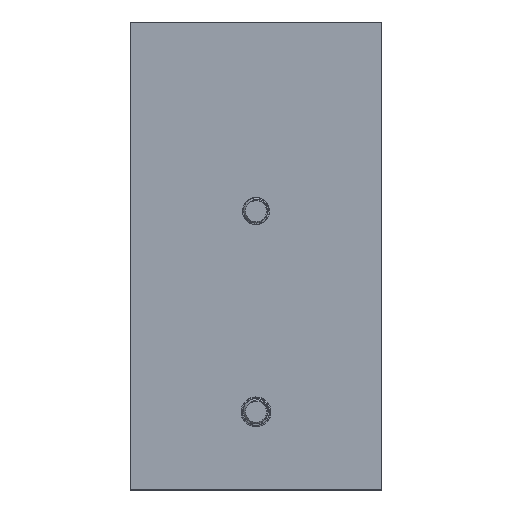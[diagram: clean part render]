
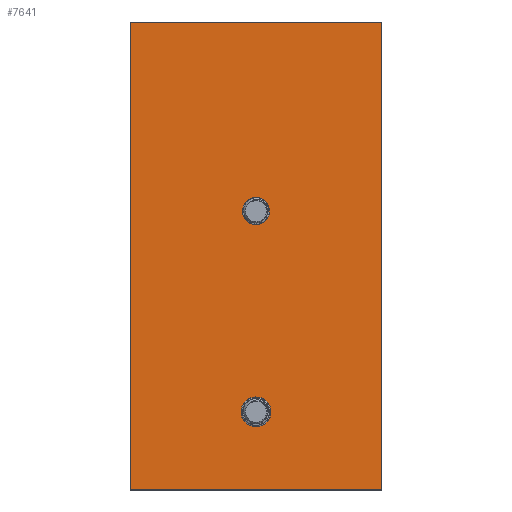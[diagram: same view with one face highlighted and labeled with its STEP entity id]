
A CAD part, top view. The second image highlights one B-rep face of the part: STEP entity #7641.
In plain terms, the highlighted planar face has unit normal (0, 0, 1).
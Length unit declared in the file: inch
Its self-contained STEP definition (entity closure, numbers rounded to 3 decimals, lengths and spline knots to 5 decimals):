
#37=FACE_BOUND('',#1341,.T.);
#38=FACE_BOUND('',#1342,.T.);
#277=PLANE('',#8298);
#932=FACE_OUTER_BOUND('',#1340,.T.);
#1340=EDGE_LOOP('',(#6885,#6886,#6887,#6888));
#1341=EDGE_LOOP('',(#6889));
#1342=EDGE_LOOP('',(#6890));
#1642=CIRCLE('',#8294,0.09247);
#1644=CIRCLE('',#8297,0.11);
#2234=LINE('',#17203,#2800);
#2235=LINE('',#17205,#2801);
#2236=LINE('',#17207,#2802);
#2237=LINE('',#17208,#2803);
#2800=VECTOR('',#10070,0.3937);
#2801=VECTOR('',#10071,0.3937);
#2802=VECTOR('',#10072,0.3937);
#2803=VECTOR('',#10073,0.3937);
#3561=VERTEX_POINT('',#17191);
#3563=VERTEX_POINT('',#17197);
#3564=VERTEX_POINT('',#17201);
#3565=VERTEX_POINT('',#17202);
#3566=VERTEX_POINT('',#17204);
#3567=VERTEX_POINT('',#17206);
#4682=EDGE_CURVE('',#3561,#3561,#1642,.T.);
#4685=EDGE_CURVE('',#3563,#3563,#1644,.T.);
#4686=EDGE_CURVE('',#3564,#3565,#2234,.T.);
#4687=EDGE_CURVE('',#3565,#3566,#2235,.T.);
#4688=EDGE_CURVE('',#3566,#3567,#2236,.T.);
#4689=EDGE_CURVE('',#3564,#3567,#2237,.T.);
#6885=ORIENTED_EDGE('',*,*,#4686,.T.);
#6886=ORIENTED_EDGE('',*,*,#4687,.T.);
#6887=ORIENTED_EDGE('',*,*,#4688,.T.);
#6888=ORIENTED_EDGE('',*,*,#4689,.F.);
#6889=ORIENTED_EDGE('',*,*,#4682,.T.);
#6890=ORIENTED_EDGE('',*,*,#4685,.T.);
#7641=ADVANCED_FACE('',(#932,#37,#38),#277,.T.);
#8294=AXIS2_PLACEMENT_3D('',#17193,#10059,#10060);
#8297=AXIS2_PLACEMENT_3D('',#17199,#10066,#10067);
#8298=AXIS2_PLACEMENT_3D('',#17200,#10068,#10069);
#10059=DIRECTION('center_axis',(0.,0.,-1.));
#10060=DIRECTION('ref_axis',(1.,0.,0.));
#10066=DIRECTION('center_axis',(0.,0.,-1.));
#10067=DIRECTION('ref_axis',(1.,0.,0.));
#10068=DIRECTION('center_axis',(0.,0.,1.));
#10069=DIRECTION('ref_axis',(-1.,0.,0.));
#10070=DIRECTION('',(0.,-1.,0.));
#10071=DIRECTION('',(1.,0.,0.));
#10072=DIRECTION('',(0.,1.,0.));
#10073=DIRECTION('',(1.,0.,0.));
#17191=CARTESIAN_POINT('',(-2.50738,0.6383,0.10028));
#17193=CARTESIAN_POINT('Origin',(-2.4149,0.6383,0.10028));
#17197=CARTESIAN_POINT('',(-2.52622,-0.85063,0.10028));
#17199=CARTESIAN_POINT('Origin',(-2.41622,-0.85063,0.10028));
#17200=CARTESIAN_POINT('Origin',(-2.41622,-0.10068,0.10028));
#17201=CARTESIAN_POINT('',(-3.34495,2.02353,0.10028));
#17202=CARTESIAN_POINT('',(-3.34495,-1.42489,0.10028));
#17203=CARTESIAN_POINT('',(-3.34495,1.05257,0.10028));
#17204=CARTESIAN_POINT('',(-1.48749,-1.42489,0.10028));
#17205=CARTESIAN_POINT('',(-3.34495,-1.42489,0.10028));
#17206=CARTESIAN_POINT('',(-1.48749,2.02353,0.10028));
#17207=CARTESIAN_POINT('',(-1.48749,-1.42489,0.10028));
#17208=CARTESIAN_POINT('',(-1.65844,2.02353,0.10028));
